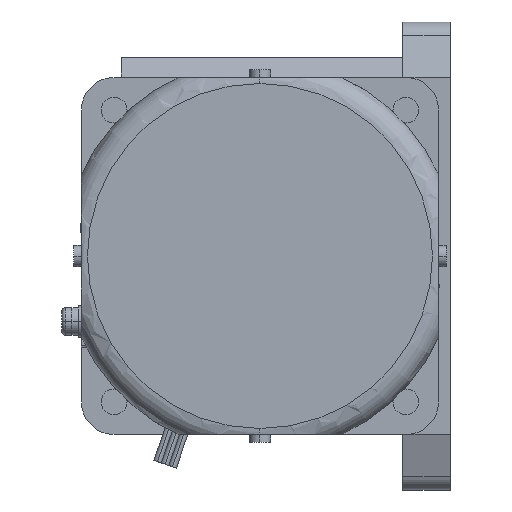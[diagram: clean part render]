
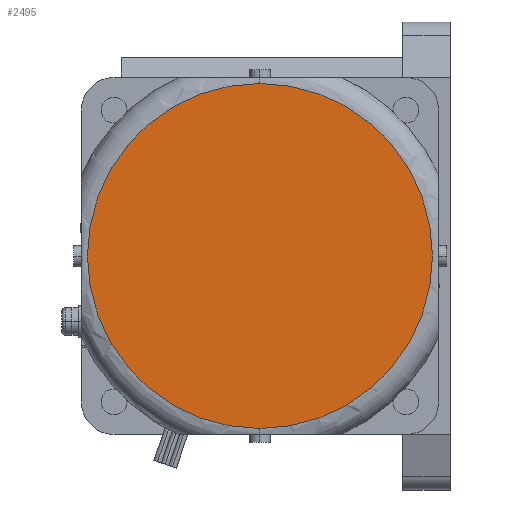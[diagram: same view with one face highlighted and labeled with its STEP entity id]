
A CAD part, left-side view. The second image highlights one B-rep face of the part: STEP entity #2495.
In plain terms, the highlighted planar face has unit normal (-1, 0, 0).
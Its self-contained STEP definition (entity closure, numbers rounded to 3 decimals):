
#2475=CARTESIAN_POINT('POINT750476',(-211.5,48.,26.5));
#2476=VERTEX_POINT('VERTEX750476',#2475);
#2477=CARTESIAN_POINT('POINT750477',(-211.5,48.,-60.5));
#2478=VERTEX_POINT('VERTEX750477',#2477);
#2479=CARTESIAN_POINT('POS1249505',(-211.5,48.,-17.));
#2480=DIRECTION('DIR1880523',(-1.,0.,0.));
#2481=DIRECTION('DIR1880524',(0.,0.,-1.));
#2482=AXIS2_PLACEMENT_3D('AXIS631019',#2479,#2480,#2481);
#2483=CIRCLE('ELLIPSE294563',#2482,43.5);
#2484=EDGE_CURVE('EDGE1146370',#2476,#2478,#2483,.T.);
#2485=ORIENTED_EDGE('COEDGE2292723',*,*,#2484,.T.);
#2486=EDGE_CURVE('EDGE1146371',#2478,#2476,#2483,.T.);
#2487=ORIENTED_EDGE('COEDGE2292724',*,*,#2486,.T.);
#2488=EDGE_LOOP('NONE',(#2485,#2487));
#2489=FACE_BOUND('LOOP1',#2488,.T.);
#2490=CARTESIAN_POINT('POS1249506',(-211.5,48.,
   5.25));
#2491=DIRECTION('DIR1880525',(-1.,0.,0.));
#2492=DIRECTION('DIR1880526',(0.,1.,0.));
#2493=AXIS2_PLACEMENT_3D('AXIS631020',#2490,#2491,#2492);
#2494=PLANE('PLANE203456',#2493);
#2495=ADVANCED_FACE('FACE468809',(#2489),#2494,.T.);
